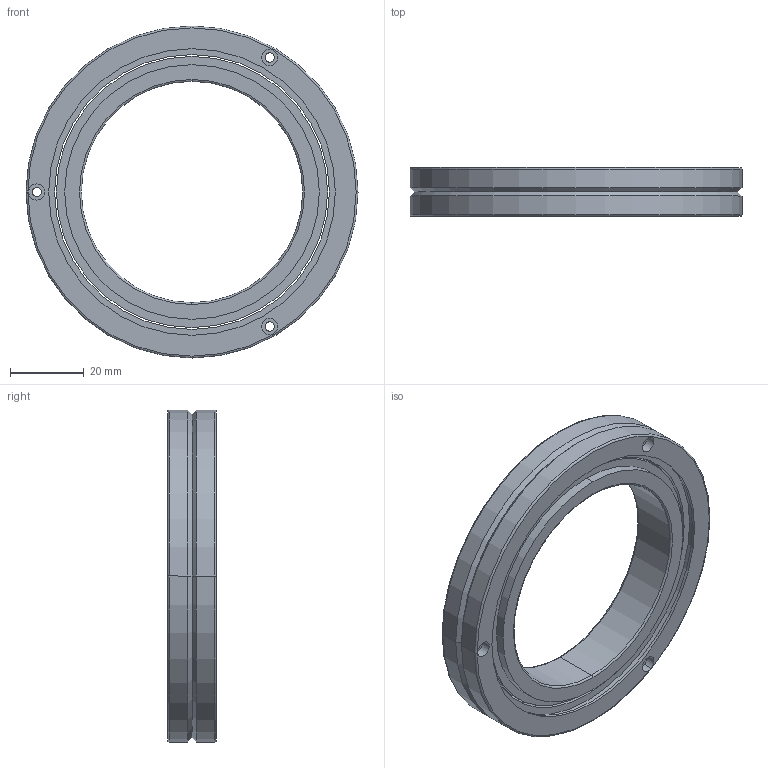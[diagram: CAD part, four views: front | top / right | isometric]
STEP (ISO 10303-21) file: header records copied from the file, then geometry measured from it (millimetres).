
FILE_DESCRIPTION((''),'2;1');
FILE_NAME('RB6013','2014-12-13T',('Administrator'),(''),'PRO/ENGINEER BY PARAMETRIC TECHNOLOGY CORPORATION, 2010180','PRO/ENGINEER BY PARAMETRIC TECHNOLOGY CORPORATION, 2010180','');
FILE_SCHEMA(('AUTOMOTIVE_DESIGN_CC2 { 1 2 10303 214 -1 1 5 2 }'));
Length unit declared in the file: millimetre
Products named in the file (1): RB6013
Bounding box: 90 x 13.2 x 90 mm (x, y, z)
Volume: 36257.8 mm3; surface area: 20997.9 mm2
Topology: 2 solids, 2 shells, 80 faces, 166 edges, 102 vertices
Faces by surface type: cylinder 44, plane 16, cone 12, torus 8
Entity records: 2263 total; most frequent: DIRECTION 436, CARTESIAN_POINT 348, ORIENTED_EDGE 332, AXIS2_PLACEMENT_3D 190, EDGE_CURVE 166, CIRCLE 110, VERTEX_POINT 102, EDGE_LOOP 102
